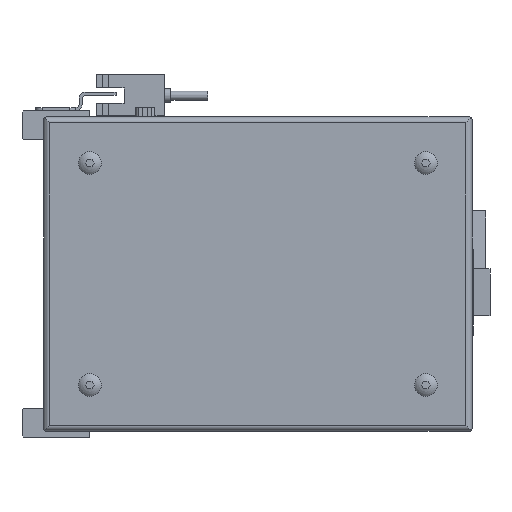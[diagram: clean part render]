
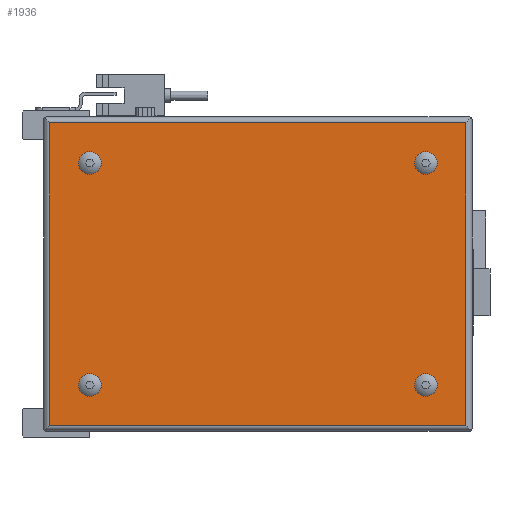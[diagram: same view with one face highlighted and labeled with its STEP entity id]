
A CAD part, left-side view. The second image highlights one B-rep face of the part: STEP entity #1936.
In plain terms, the highlighted planar face has unit normal (-1, 0, 0).
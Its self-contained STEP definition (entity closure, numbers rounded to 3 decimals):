
#1936 = ADVANCED_FACE( '', ( #4168, #4169, #4170, #4171, #4172 ), #4173, .F. );
#4168 = FACE_BOUND( '', #6677, .T. );
#4169 = FACE_BOUND( '', #6678, .T. );
#4170 = FACE_BOUND( '', #6679, .T. );
#4171 = FACE_BOUND( '', #6680, .T. );
#4172 = FACE_OUTER_BOUND( '', #6681, .T. );
#4173 = PLANE( '', #6682 );
#6677 = EDGE_LOOP( '', ( #11988 ) );
#6678 = EDGE_LOOP( '', ( #11989 ) );
#6679 = EDGE_LOOP( '', ( #11990 ) );
#6680 = EDGE_LOOP( '', ( #11991 ) );
#6681 = EDGE_LOOP( '', ( #11992, #11993, #11994, #11995 ) );
#6682 = AXIS2_PLACEMENT_3D( '', #11996, #11997, #11998 );
#11988 = ORIENTED_EDGE( '', *, *, #15977, .F. );
#11989 = ORIENTED_EDGE( '', *, *, #16427, .F. );
#11990 = ORIENTED_EDGE( '', *, *, #15336, .F. );
#11991 = ORIENTED_EDGE( '', *, *, #16455, .F. );
#11992 = ORIENTED_EDGE( '', *, *, #16399, .T. );
#11993 = ORIENTED_EDGE( '', *, *, #15299, .F. );
#11994 = ORIENTED_EDGE( '', *, *, #16456, .F. );
#11995 = ORIENTED_EDGE( '', *, *, #14883, .T. );
#11996 = CARTESIAN_POINT( '', ( -52., -75., 50. ) );
#11997 = DIRECTION( '', ( 1., 0., 0. ) );
#11998 = DIRECTION( '', ( 0., 0., -1. ) );
#14883 = EDGE_CURVE( '', #17973, #17971, #17974, .T. );
#15299 = EDGE_CURVE( '', #18673, #18676, #18677, .T. );
#15336 = EDGE_CURVE( '', #18734, #18734, #18735, .F. );
#15977 = EDGE_CURVE( '', #19701, #19701, #19702, .F. );
#16399 = EDGE_CURVE( '', #17971, #18676, #20264, .F. );
#16427 = EDGE_CURVE( '', #20300, #20300, #20301, .F. );
#16455 = EDGE_CURVE( '', #20337, #20337, #20338, .F. );
#16456 = EDGE_CURVE( '', #17973, #18673, #20339, .F. );
#17971 = VERTEX_POINT( '', #22366 );
#17973 = VERTEX_POINT( '', #22368 );
#17974 = LINE( '', #22369, #22370 );
#18673 = VERTEX_POINT( '', #23364 );
#18676 = VERTEX_POINT( '', #23367 );
#18677 = LINE( '', #23368, #23369 );
#18734 = VERTEX_POINT( '', #23486 );
#18735 = CIRCLE( '', #23487, 3.7 );
#19701 = VERTEX_POINT( '', #24969 );
#19702 = CIRCLE( '', #24970, 3.7 );
#20264 = LINE( '', #25830, #25831 );
#20300 = VERTEX_POINT( '', #25887 );
#20301 = CIRCLE( '', #25888, 3.7 );
#20337 = VERTEX_POINT( '', #25984 );
#20338 = CIRCLE( '', #25985, 3.7 );
#20339 = LINE( '', #25986, #25987 );
#22366 = CARTESIAN_POINT( '', ( -52., -74., 49. ) );
#22368 = CARTESIAN_POINT( '', ( -52., -74., -49. ) );
#22369 = CARTESIAN_POINT( '', ( -52., -74., -102. ) );
#22370 = VECTOR( '', #27553, 1000. );
#23364 = CARTESIAN_POINT( '', ( -52., 61., -49. ) );
#23367 = CARTESIAN_POINT( '', ( -52., 61., 49. ) );
#23368 = CARTESIAN_POINT( '', ( -52., 61., -102. ) );
#23369 = VECTOR( '', #28062, 1000. );
#23486 = CARTESIAN_POINT( '', ( -52., 48., 32.3 ) );
#23487 = AXIS2_PLACEMENT_3D( '', #28097, #28098, #28099 );
#24969 = CARTESIAN_POINT( '', ( -52., -61., 32.3 ) );
#24970 = AXIS2_PLACEMENT_3D( '', #28822, #28823, #28824 );
#25830 = CARTESIAN_POINT( '', ( -52., 139., 49. ) );
#25831 = VECTOR( '', #29266, 1000. );
#25887 = CARTESIAN_POINT( '', ( -52., -61., -39.7 ) );
#25888 = AXIS2_PLACEMENT_3D( '', #29285, #29286, #29287 );
#25984 = CARTESIAN_POINT( '', ( -52., 48., -39.7 ) );
#25985 = AXIS2_PLACEMENT_3D( '', #29310, #29311, #29312 );
#25986 = CARTESIAN_POINT( '', ( -52., 139., -49. ) );
#25987 = VECTOR( '', #29313, 1000. );
#27553 = DIRECTION( '', ( 0., 0., 1. ) );
#28062 = DIRECTION( '', ( 0., 0., 1. ) );
#28097 = CARTESIAN_POINT( '', ( -52., 48., 36. ) );
#28098 = DIRECTION( '', ( 1., 0., 0. ) );
#28099 = DIRECTION( '', ( 0., 0., -1. ) );
#28822 = CARTESIAN_POINT( '', ( -52., -61., 36. ) );
#28823 = DIRECTION( '', ( 1., 0., 0. ) );
#28824 = DIRECTION( '', ( 0., 0., -1. ) );
#29266 = DIRECTION( '', ( 0., -1., 0. ) );
#29285 = CARTESIAN_POINT( '', ( -52., -61., -36. ) );
#29286 = DIRECTION( '', ( 1., 0., 0. ) );
#29287 = DIRECTION( '', ( 0., 0., -1. ) );
#29310 = CARTESIAN_POINT( '', ( -52., 48., -36. ) );
#29311 = DIRECTION( '', ( 1., 0., 0. ) );
#29312 = DIRECTION( '', ( 0., 0., -1. ) );
#29313 = DIRECTION( '', ( 0., -1., 0. ) );
